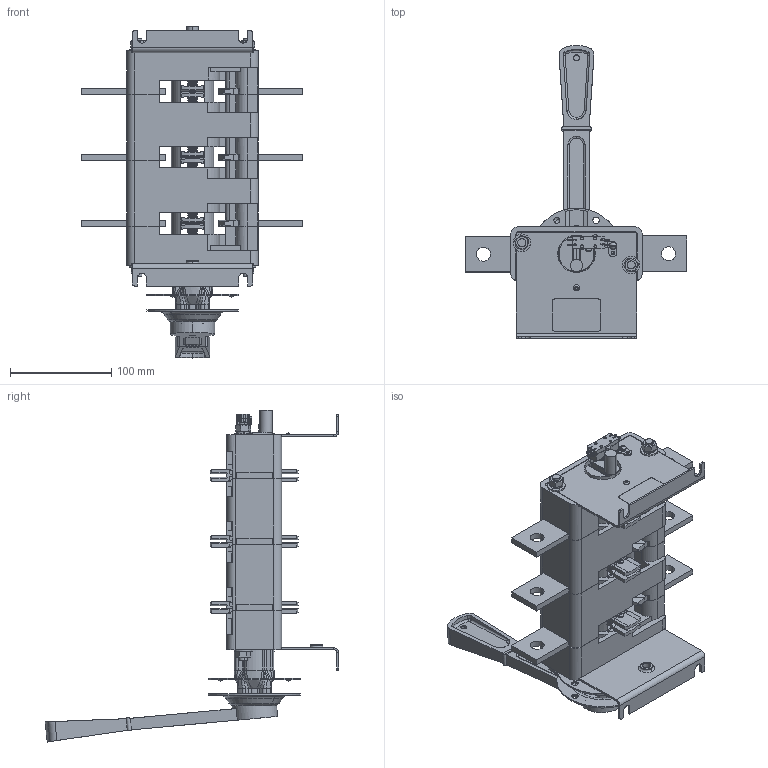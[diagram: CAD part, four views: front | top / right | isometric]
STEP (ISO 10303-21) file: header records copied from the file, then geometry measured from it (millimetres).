
FILE_DESCRIPTION (( 'STEP AP214' ), '1' );
FILE_NAME ('ﾂﾐ32-39ﾔ ﾃﾆﾈﾊ.642523.009-02 (ﾂ30251-630ﾀ).STEP', '2022-07-14T13:03:29', ( '' ), ( '' ), 'SwSTEP 2.0', 'SolidWorks 2018', '' );
FILE_SCHEMA (( 'AUTOMOTIVE_DESIGN' ));
Length unit declared in the file: millimetre
Products named in the file (38): 暑痫篑 镳噔 闷仁.735384.048; 买箅赅 闷仁.713141.011; Áîêîâèíà ïðàâàÿ_ÃÆÈÊ.735224.028; Ðóêîÿòêà_ÃÆÈÊ.303658.011_-01 (á¡®àª ); Òàáëè÷êà äëÿ ñáîðêè ÷èñòàÿ áîëüøàÿ; Ãàéêà 2Ì8-6Í.5.016; ﾐ飼璢_ﾃﾆﾈﾊ.303733.004_-01 (癸ｮ爼); Êîíòàêò ïîäâèæíûé ÃÆÈÊ.685179.146; 澡犟囹铕 忄豚 闷仁.745484.008.SLDDRW; 务黖闷仁.715411.020; Îáîëî÷êà_630À; 想囫蜩磬_闷仁.745355.018_-01 (帷獱); 想囫蜩磬_闷仁.745355.015_-01 (帷獱); ﾂ琿 ﾃﾆﾈﾊ.715274.004; Òàáëè÷êà äëÿ ñáîðêè ÷èñòàÿ; Áîêîâèíà ëåâàÿ ÃÆÈÊ.735224.029_-01(à¥§ì¡ ); 澡犟囹铕_闷仁.745484.007; Ïðîêëàäêà ÃÆÈÊ.741233.006_-01(¤«ï ç¥àâ¥¦ ); ﾘ琺矜_ﾃﾆﾈﾊ.758491.057_-01 (癸ｮ爼); Êîðïóñ ñðåäíèé ÃÆÈÊ.735384.049; ﾂﾐ32-39ﾔ ﾃﾆﾈﾊ.642523.009-02 (ﾂ30251-630ﾀ); ﾘ琺矜 8 ﾃﾆﾈﾊ.758491.024; Âèíò Â.Ì4-6g_-00 (Œ4å8); ﾊ煇鳫 ﾃﾆﾈﾊ.745357.005; ﾏ跖浯 ﾃﾆﾈﾊ.753553.013_-01 (癸ｮ爼); 枔膴闀歑樏錌欑蠈錪 蟠61; Êîíòàêò ïîäâèæíûé_ÃÆÈÊ.745355.014; ﾘ琺矜 ﾃﾆﾈﾊ.758491.059; Øïèëüêà Ì8 ÃÆÈÊ.758292.006; 蓐聆屙蝠桕 闷仁.751621.003; 噪囗弼 闷仁.712378.002_-01 (帷獱); Êîðïóñ ëåâûé ÃÆÈÊ.735384.050; ﾘ琺矜 4; ﾂ鏆鮏 ﾃﾆﾈﾊ.745485.006; 剜獒郷闷仁.758491.058; 想囫蜩磬_闷仁.745355.016; ﾏ跖浯_ﾃﾆﾈﾊ.753553.012_-01 (癸ｮ爼); ﾘ琺矜 8 65ﾃ 016
Assembly tree (62 placements, depth 4):
  ﾂﾐ32-39ﾔ ﾃﾆﾈﾊ.642523.009-02 (ﾂ30251-630ﾀ)
    Êîðïóñ ëåâûé ÃÆÈÊ.735384.050
    暑痫篑 镳噔 闷仁.735384.048
    Êîðïóñ ñðåäíèé ÃÆÈÊ.735384.049  x2
    ﾂ琿 ﾃﾆﾈﾊ.715274.004
    Êîíòàêò ïîäâèæíûé ÃÆÈÊ.685179.146  x3
      想囫蜩磬_闷仁.745355.016
      务黖闷仁.715411.020
      Êîíòàêò ïîäâèæíûé_ÃÆÈÊ.745355.014
      澡犟囹铕_闷仁.745484.007
      ﾏ跖浯_ﾃﾆﾈﾊ.753553.012_-01 (癸ｮ爼)
    Áîêîâèíà ëåâàÿ ÃÆÈÊ.735224.029_-01(à¥§ì¡ )
    Áîêîâèíà ïðàâàÿ_ÃÆÈÊ.735224.028
    澡犟囹铕 忄豚 闷仁.745484.008.SLDDRW  x2
    ﾏ跖浯 ﾃﾆﾈﾊ.753553.013_-01 (癸ｮ爼)  x2
    Ïðîêëàäêà ÃÆÈÊ.741233.006_-01(¤«ï ç¥àâ¥¦ )  x2
    蓐聆屙蝠桕 闷仁.751621.003
    Øïèëüêà Ì8 ÃÆÈÊ.758292.006  x2
    Ãàéêà 2Ì8-6Í.5.016  x4
    ﾘ琺矜 8 65ﾃ 016  x2
    买箅赅 闷仁.713141.011
    ﾘ琺矜 ﾃﾆﾈﾊ.758491.059
    噪囗弼 闷仁.712378.002_-01 (帷獱)
    Ðóêîÿòêà_ÃÆÈÊ.303658.011_-01 (á¡®àª )
      ﾐ飼璢_ﾃﾆﾈﾊ.303733.004_-01 (癸ｮ爼)
        想囫蜩磬_闷仁.745355.018_-01 (帷獱)
        剜獒郷闷仁.758491.058
        想囫蜩磬_闷仁.745355.015_-01 (帷獱)
        ﾘ琺矜_ﾃﾆﾈﾊ.758491.057_-01 (癸ｮ爼)
      Îáîëî÷êà_630À
    ﾘ琺矜 8 ﾃﾆﾈﾊ.758491.024  x4
    ﾂ鏆鮏 ﾃﾆﾈﾊ.745485.006  x6
    ﾊ煇鳫 ﾃﾆﾈﾊ.745357.005
    枔膴闀歑樏錌欑蠈錪 蟠61
    Âèíò Â.Ì4-6g_-00 (Œ4å8)
    ﾘ琺矜 4
    Òàáëè÷êà äëÿ ñáîðêè ÷èñòàÿ
    Òàáëè÷êà äëÿ ñáîðêè ÷èñòàÿ áîëüøàÿ
Bounding box: 219 x 290.2 x 328.27 mm (x, y, z)
Volume: 1021744.4 mm3; surface area: 523877.3 mm2
Topology: 79 solids, 79 shells, 3019 faces, 7555 edges, 4767 vertices
Faces by surface type: plane 1676, cylinder 1042, bspline 173, cone 82, torus 44, sphere 2
Entity records: 115004 total; most frequent: CARTESIAN_POINT 70178, ORIENTED_EDGE 8848, DIRECTION 8800, EDGE_CURVE 4424, AXIS2_PLACEMENT_3D 3095, VERTEX_POINT 2863, VECTOR 2610, LINE 2610
